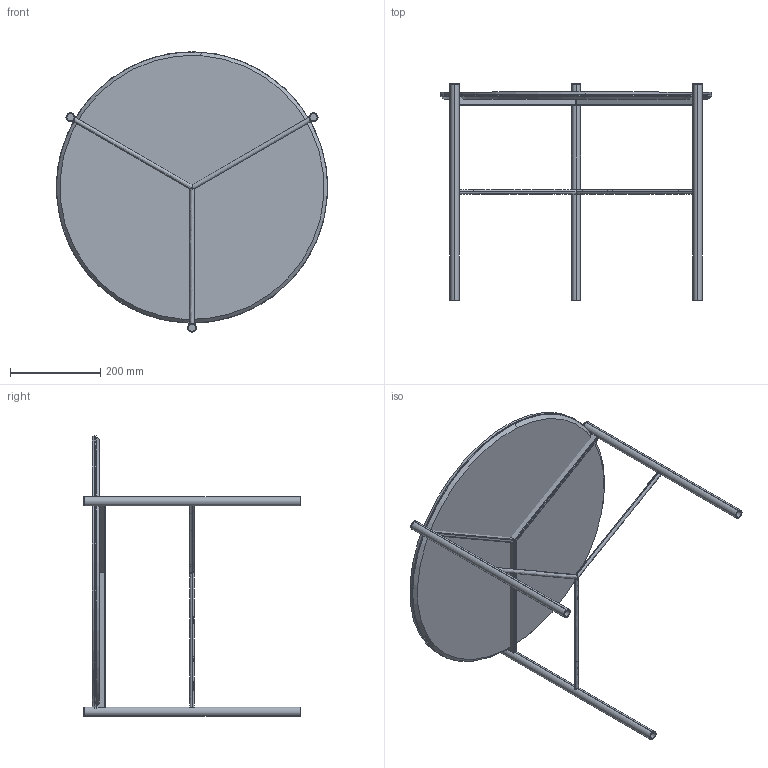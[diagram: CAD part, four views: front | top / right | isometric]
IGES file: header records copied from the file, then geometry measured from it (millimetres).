
Start section: SolidWorks IGES file using analytic representation for surfaces
Global section: file name: Y:\eforma\TECNICO\SOLIDWORKS\E-FORMA\2-TAVOLINI\JACK\02 parts\J301C.IGS; native system: SolidWorks 2022; preprocessor: SolidWorks 2022; author: eforma.tech; date: 240806.134352; units: millimetre
Bounding box: 599.97 x 479 x 620.07 mm (x, y, z)
Volume: 5546770.5 mm3; surface area: 2030040.6 mm2
Topology: 15 solids, 15 shells, 131 faces, 303 edges, 200 vertices
Faces by surface type: revolution 77, plane 54
